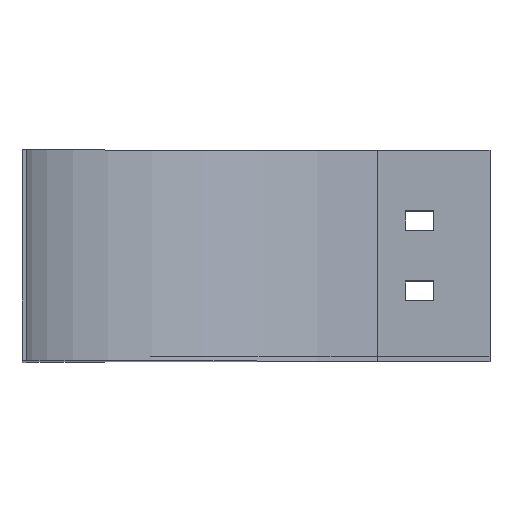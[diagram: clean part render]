
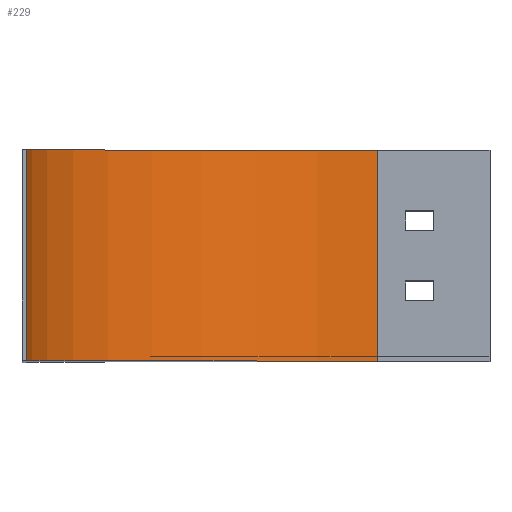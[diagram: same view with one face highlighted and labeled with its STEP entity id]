
A CAD part, top view. The second image highlights one B-rep face of the part: STEP entity #229.
In plain terms, the highlighted cylindrical face has radius 125 mm (diameter 250 mm), a partial arc.
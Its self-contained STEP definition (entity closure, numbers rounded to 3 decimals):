
#25 = CARTESIAN_POINT ( 'NONE',  ( -125., 75., 0. ) ) ;
#28 = DIRECTION ( 'NONE',  ( 0., -1., 0. ) ) ;
#46 = ORIENTED_EDGE ( 'NONE', *, *, #1447, .F. ) ;
#162 = VECTOR ( 'NONE', #734, 1000. ) ;
#229 = ADVANCED_FACE ( 'NONE', ( #1286 ), #749, .F. ) ;
#267 = DIRECTION ( 'NONE',  ( 0., -1., 0. ) ) ;
#284 = AXIS2_PLACEMENT_3D ( 'NONE', #499, #1005, #1545 ) ;
#289 = LINE ( 'NONE', #25, #577 ) ;
#315 = EDGE_CURVE ( 'NONE', #484, #786, #926, .T. ) ;
#397 = EDGE_CURVE ( 'NONE', #484, #996, #289, .T. ) ;
#484 = VERTEX_POINT ( 'NONE', #950 ) ;
#499 = CARTESIAN_POINT ( 'NONE',  ( 0., 75., 0. ) ) ;
#577 = VECTOR ( 'NONE', #267, 1000. ) ;
#610 = CARTESIAN_POINT ( 'NONE',  ( 0., 75., -125. ) ) ;
#686 = CARTESIAN_POINT ( 'NONE',  ( 0., 0., 0. ) ) ;
#724 = EDGE_CURVE ( 'NONE', #996, #863, #1620, .T. ) ;
#734 = DIRECTION ( 'NONE',  ( 0., -1., 0. ) ) ;
#749 = CYLINDRICAL_SURFACE ( 'NONE', #822, 125. ) ;
#758 = CARTESIAN_POINT ( 'NONE',  ( 0., 75., 0. ) ) ;
#786 = VERTEX_POINT ( 'NONE', #610 ) ;
#817 = DIRECTION ( 'NONE',  ( 0., 0., -1. ) ) ;
#822 = AXIS2_PLACEMENT_3D ( 'NONE', #758, #872, #1017 ) ;
#863 = VERTEX_POINT ( 'NONE', #1557 ) ;
#872 = DIRECTION ( 'NONE',  ( 0., -1., 0. ) ) ;
#890 = ORIENTED_EDGE ( 'NONE', *, *, #315, .F. ) ;
#913 = EDGE_LOOP ( 'NONE', ( #1101, #46, #890, #1090 ) ) ;
#926 = CIRCLE ( 'NONE', #284, 125. ) ;
#950 = CARTESIAN_POINT ( 'NONE',  ( -125., 75., 0. ) ) ;
#996 = VERTEX_POINT ( 'NONE', #1119 ) ;
#1005 = DIRECTION ( 'NONE',  ( 0., -1., 0. ) ) ;
#1017 = DIRECTION ( 'NONE',  ( 0., 0., -1. ) ) ;
#1090 = ORIENTED_EDGE ( 'NONE', *, *, #397, .T. ) ;
#1101 = ORIENTED_EDGE ( 'NONE', *, *, #724, .T. ) ;
#1119 = CARTESIAN_POINT ( 'NONE',  ( -125., 0., 0. ) ) ;
#1286 = FACE_OUTER_BOUND ( 'NONE', #913, .T. ) ;
#1447 = EDGE_CURVE ( 'NONE', #786, #863, #1664, .T. ) ;
#1506 = CARTESIAN_POINT ( 'NONE',  ( 0., 75., -125. ) ) ;
#1545 = DIRECTION ( 'NONE',  ( 0., 0., -1. ) ) ;
#1557 = CARTESIAN_POINT ( 'NONE',  ( 0., 0., -125. ) ) ;
#1620 = CIRCLE ( 'NONE', #1650, 125. ) ;
#1650 = AXIS2_PLACEMENT_3D ( 'NONE', #686, #28, #817 ) ;
#1664 = LINE ( 'NONE', #1506, #162 ) ;
